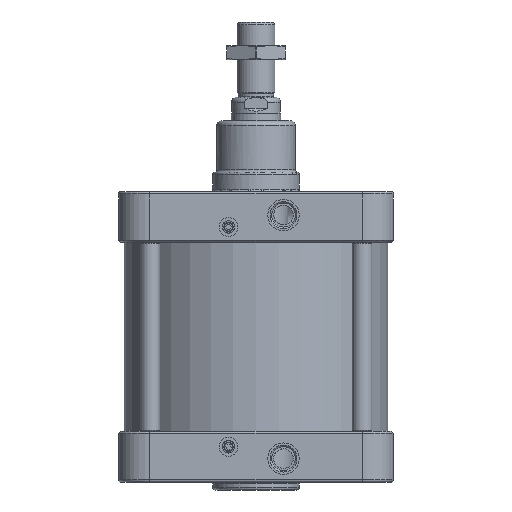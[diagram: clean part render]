
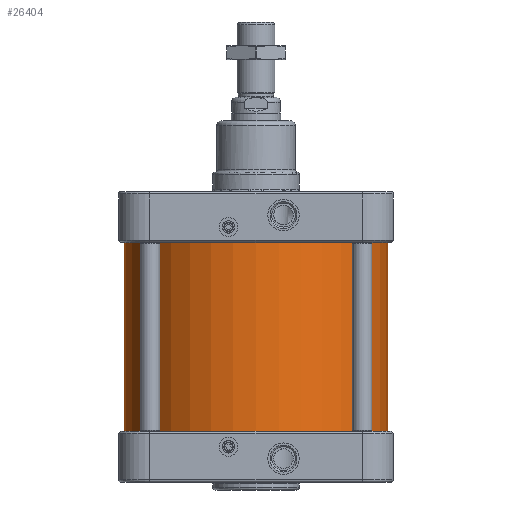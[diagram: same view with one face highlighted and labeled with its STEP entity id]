
A CAD part, front view. The second image highlights one B-rep face of the part: STEP entity #26404.
In plain terms, the highlighted cylindrical face has radius 168 mm (diameter 336 mm), a full revolution.
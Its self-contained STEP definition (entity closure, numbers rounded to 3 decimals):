
#2804=CIRCLE('',#29645,168.);
#2805=CIRCLE('',#29647,168.);
#3478=FACE_BOUND('',#7098,.T.);
#5147=FACE_OUTER_BOUND('',#7097,.T.);
#7097=EDGE_LOOP('',(#22547));
#7098=EDGE_LOOP('',(#22548));
#11979=VERTEX_POINT('',#64759);
#11980=VERTEX_POINT('',#64762);
#15511=EDGE_CURVE('',#11979,#11979,#2804,.T.);
#15512=EDGE_CURVE('',#11980,#11980,#2805,.T.);
#22547=ORIENTED_EDGE('',*,*,#15511,.T.);
#22548=ORIENTED_EDGE('',*,*,#15512,.T.);
#23070=CYLINDRICAL_SURFACE('',#29646,168.);
#26404=ADVANCED_FACE('',(#5147,#3478),#23070,.T.);
#29645=AXIS2_PLACEMENT_3D('',#64760,#36878,#36879);
#29646=AXIS2_PLACEMENT_3D('',#64761,#36880,#36881);
#29647=AXIS2_PLACEMENT_3D('',#64763,#36882,#36883);
#36878=DIRECTION('center_axis',(0.,0.,1.));
#36879=DIRECTION('ref_axis',(-1.,0.,0.));
#36880=DIRECTION('center_axis',(0.,0.,1.));
#36881=DIRECTION('ref_axis',(-1.,0.,0.));
#36882=DIRECTION('center_axis',(0.,0.,-1.));
#36883=DIRECTION('ref_axis',(-1.,0.,0.));
#64759=CARTESIAN_POINT('',(168.,0.,-120.));
#64760=CARTESIAN_POINT('Origin',(0.,0.,-120.));
#64761=CARTESIAN_POINT('Origin',(0.,0.,0.));
#64762=CARTESIAN_POINT('',(168.,0.,120.));
#64763=CARTESIAN_POINT('Origin',(0.,0.,120.));
